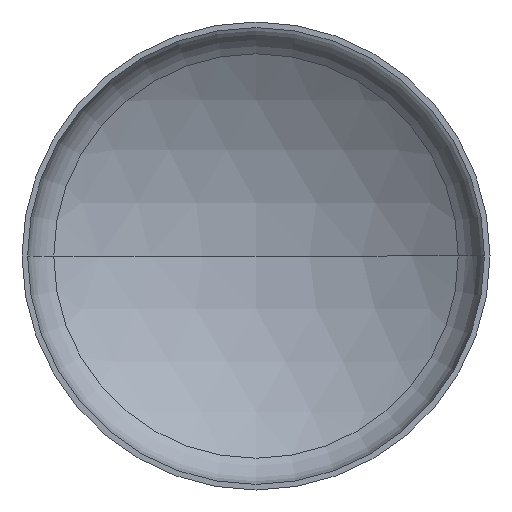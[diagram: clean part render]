
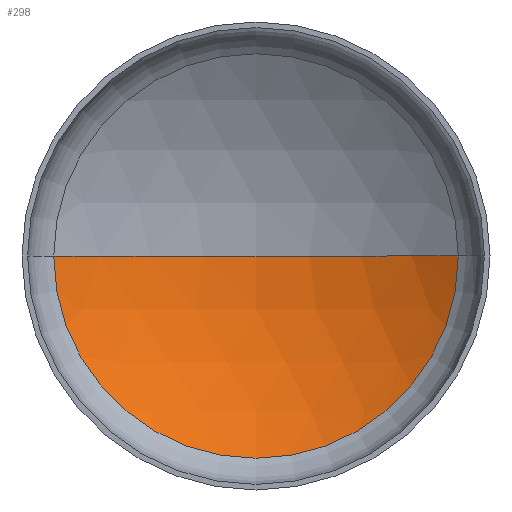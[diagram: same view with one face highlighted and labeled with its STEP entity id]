
A CAD part, front view. The second image highlights one B-rep face of the part: STEP entity #298.
In plain terms, the highlighted spherical face has radius 130.64 mm.
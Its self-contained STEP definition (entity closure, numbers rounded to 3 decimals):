
#38 = AXIS2_PLACEMENT_3D ( 'NONE', #129, #405, #282 ) ;
#40 = DIRECTION ( 'NONE',  ( -1., 0., 0. ) ) ;
#46 = EDGE_CURVE ( 'NONE', #391, #274, #193, .T. ) ;
#48 = CARTESIAN_POINT ( 'NONE',  ( -72.733, 20.381, 0. ) ) ;
#56 = CIRCLE ( 'NONE', #112, 130.64 ) ;
#99 = CARTESIAN_POINT ( 'NONE',  ( 0., -88.14, 0. ) ) ;
#112 = AXIS2_PLACEMENT_3D ( 'NONE', #173, #359, #113 ) ;
#113 = DIRECTION ( 'NONE',  ( 1., 0., 0. ) ) ;
#120 = AXIS2_PLACEMENT_3D ( 'NONE', #132, #188, #264 ) ;
#127 = DIRECTION ( 'NONE',  ( 0., 0., -1. ) ) ;
#129 = CARTESIAN_POINT ( 'NONE',  ( 0., -88.14, 0. ) ) ;
#132 = CARTESIAN_POINT ( 'NONE',  ( 0., 20.381, 0. ) ) ;
#172 = ORIENTED_EDGE ( 'NONE', *, *, #387, .T. ) ;
#173 = CARTESIAN_POINT ( 'NONE',  ( 0., -88.14, 0. ) ) ;
#184 = EDGE_LOOP ( 'NONE', ( #204, #172, #329 ) ) ;
#188 = DIRECTION ( 'NONE',  ( 0., 1., 0. ) ) ;
#193 = CIRCLE ( 'NONE', #276, 130.64 ) ;
#204 = ORIENTED_EDGE ( 'NONE', *, *, #216, .F. ) ;
#216 = EDGE_CURVE ( 'NONE', #333, #391, #308, .T. ) ;
#264 = DIRECTION ( 'NONE',  ( -1., 0., 0. ) ) ;
#274 = VERTEX_POINT ( 'NONE', #293 ) ;
#276 = AXIS2_PLACEMENT_3D ( 'NONE', #99, #127, #40 ) ;
#282 = DIRECTION ( 'NONE',  ( -1., 0., 0. ) ) ;
#293 = CARTESIAN_POINT ( 'NONE',  ( 0., 42.5, 0. ) ) ;
#298 = ADVANCED_FACE ( 'NONE', ( #349 ), #342, .F. ) ;
#308 = CIRCLE ( 'NONE', #120, 72.733 ) ;
#312 = CARTESIAN_POINT ( 'NONE',  ( 72.733, 20.381, 0. ) ) ;
#329 = ORIENTED_EDGE ( 'NONE', *, *, #46, .F. ) ;
#333 = VERTEX_POINT ( 'NONE', #312 ) ;
#342 = SPHERICAL_SURFACE ( 'NONE', #38, 130.64 ) ;
#349 = FACE_OUTER_BOUND ( 'NONE', #184, .T. ) ;
#359 = DIRECTION ( 'NONE',  ( 0., 0., 1. ) ) ;
#387 = EDGE_CURVE ( 'NONE', #333, #274, #56, .T. ) ;
#391 = VERTEX_POINT ( 'NONE', #48 ) ;
#405 = DIRECTION ( 'NONE',  ( 0., 0., 1. ) ) ;
